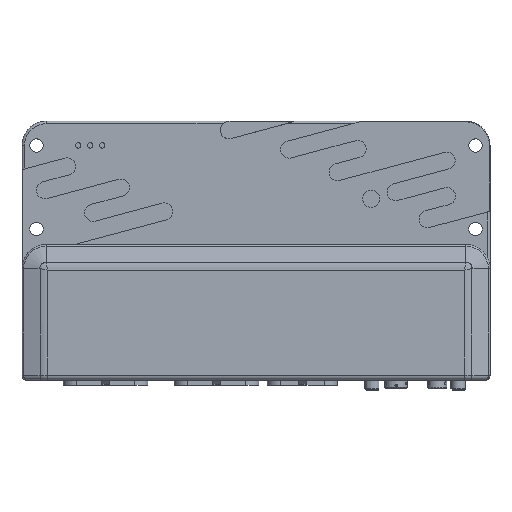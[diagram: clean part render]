
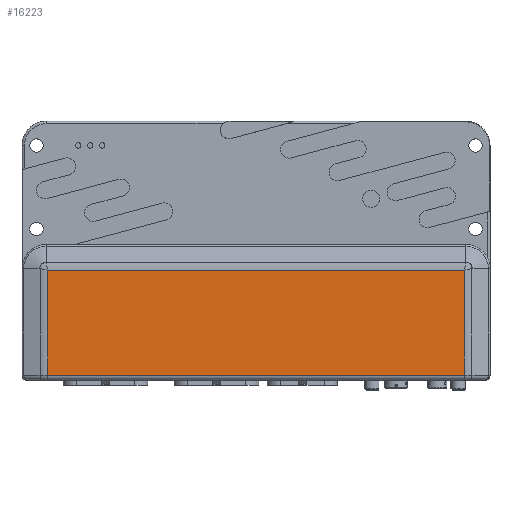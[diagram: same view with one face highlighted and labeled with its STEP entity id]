
A CAD part, top view. The second image highlights one B-rep face of the part: STEP entity #16223.
In plain terms, the highlighted planar face has unit normal (0, 0, 1).
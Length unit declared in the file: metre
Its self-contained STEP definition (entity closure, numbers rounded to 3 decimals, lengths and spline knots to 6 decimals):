
#5105=ORIENTED_EDGE('',*,*,#8251,.T.);
#5106=ORIENTED_EDGE('',*,*,#8229,.T.);
#5107=ORIENTED_EDGE('',*,*,#8240,.T.);
#5108=ORIENTED_EDGE('',*,*,#8247,.T.);
#8229=EDGE_CURVE('',#10051,#10049,#11180,.T.);
#8240=EDGE_CURVE('',#10049,#10058,#11185,.T.);
#8247=EDGE_CURVE('',#10058,#10062,#11188,.F.);
#8251=EDGE_CURVE('',#10062,#10051,#11190,.T.);
#10049=VERTEX_POINT('',#32952);
#10051=VERTEX_POINT('',#32958);
#10058=VERTEX_POINT('',#33003);
#10062=VERTEX_POINT('',#33300);
#11180=LINE('',#32961,#12323);
#11185=LINE('',#33002,#12328);
#11188=LINE('',#33301,#12331);
#11190=LINE('',#33573,#12333);
#12323=VECTOR('',#24341,1.);
#12328=VECTOR('',#24366,1.);
#12331=VECTOR('',#24371,1.);
#12333=VECTOR('',#24375,1.);
#13654=EDGE_LOOP('',(#5105,#5106,#5107,#5108));
#14814=FACE_BOUND('',#13654,.T.);
#15388=PLANE('',#20778);
#16223=ADVANCED_FACE('',(#14814),#15388,.T.);
#20778=AXIS2_PLACEMENT_3D('',#33688,#24501,#24502);
#24341=DIRECTION('',(1.,0.,0.));
#24366=DIRECTION('',(0.,1.,0.));
#24371=DIRECTION('',(1.,0.,0.));
#24375=DIRECTION('',(0.,-1.,0.));
#24501=DIRECTION('',(0.,0.,1.));
#24502=DIRECTION('',(0.,-1.,0.));
#32952=CARTESIAN_POINT('',(0.086127,-0.0515,0.0276));
#32958=CARTESIAN_POINT('',(-0.086127,-0.0515,0.0276));
#32961=CARTESIAN_POINT('',(-0.096752,-0.0515,0.0276));
#33002=CARTESIAN_POINT('',(0.086127,-0.0255,0.0276));
#33003=CARTESIAN_POINT('',(0.086127,-0.008123,0.0276));
#33300=CARTESIAN_POINT('',(-0.086127,-0.008123,0.0276));
#33301=CARTESIAN_POINT('',(-0.096752,-0.008123,0.0276));
#33573=CARTESIAN_POINT('',(-0.086127,-0.0255,0.0276));
#33688=CARTESIAN_POINT('',(-0.096752,-0.0255,0.0276));
